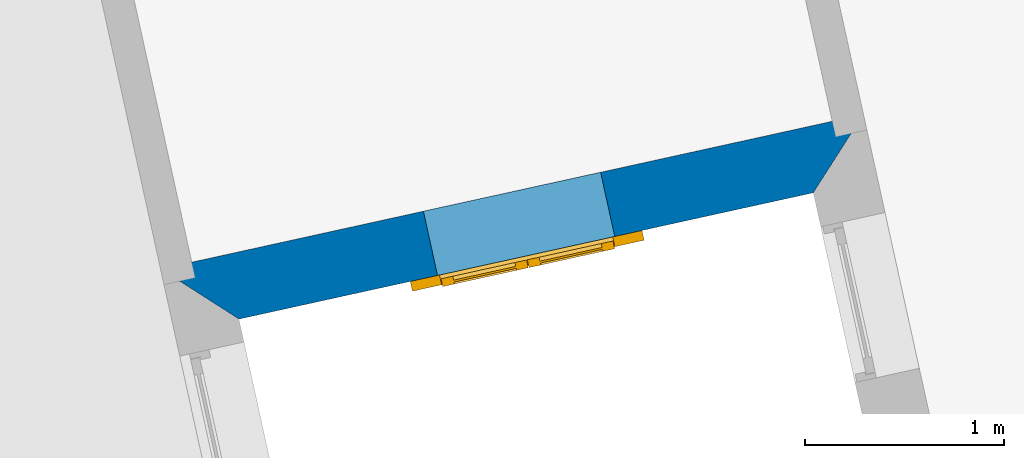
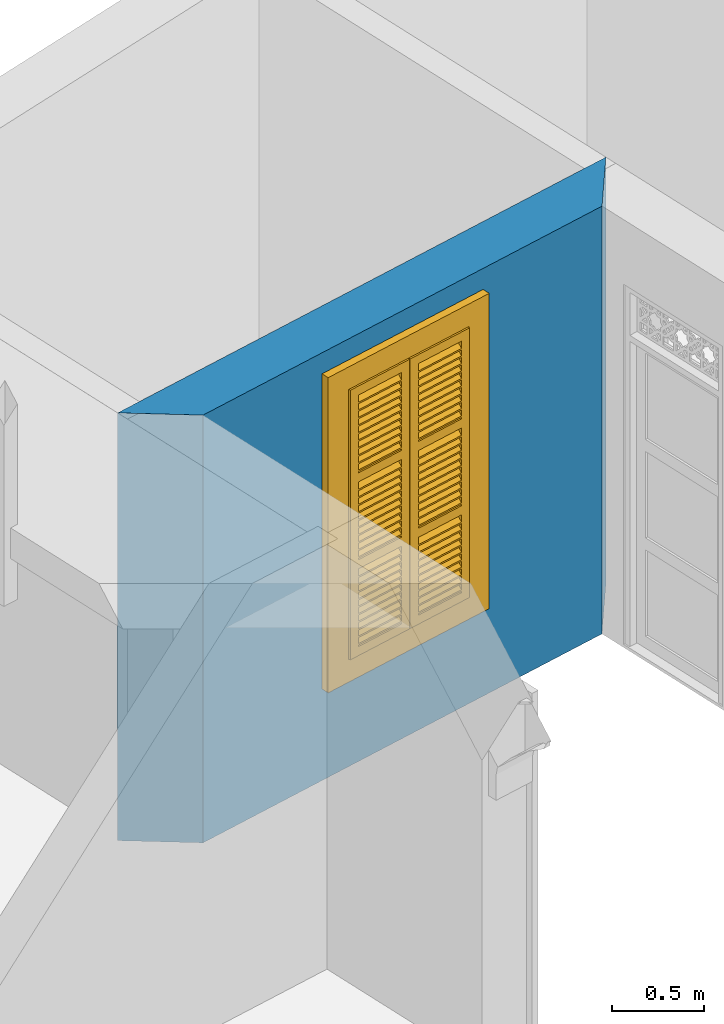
# One storey, part 12 of 14: 1 wall, 1 window, 1 opening.
"""IFC4 building model written with IfcOpenShell, lengths in metres."""

from ifc_helpers import new_model, si_unit, frame, origin, origin_with_axes, place, context, subcontext, project, spatial, polyline, outline, extrude, faceted_brep, source, transform, mapped, material, layer, layer_set, layer_usage, type_object, type_shapes, element, fill, save


model = new_model("IFC4")

# Units and contexts
model_context = context("Model", 3, world=origin_with_axes())
body_context = subcontext(model_context, "Body", "Model", "MODEL_VIEW")
ifc_project = project(units=[si_unit("PLANEANGLEUNIT", "RADIAN"), si_unit("MASSUNIT", "GRAM", prefix="KILO"), si_unit("FORCEUNIT", "NEWTON", prefix="KILO"), si_unit("LENGTHUNIT", "METRE"), si_unit("AREAUNIT", "SQUARE_METRE"), si_unit("VOLUMEUNIT", "CUBIC_METRE")], contexts=[model_context, model_context])

# Site, building, storey
site_placement = place(None, origin_with_axes())
site = spatial("IfcSite", under=ifc_project, at=site_placement, Name="Site plot-2", CompositionType="ELEMENT")
building_placement = place(None, origin_with_axes())
building = spatial("IfcBuilding", under=site, at=building_placement, Name="Building plot-2", CompositionType="ELEMENT")
storey_placement = place(None, origin_with_axes())
storey = spatial("IfcBuildingStorey", under=building, at=storey_placement, Name="plot-2 0", CompositionType="ELEMENT", Elevation=0.0)

# Wall, opening, window
ifc_material = material(Name="Masonry")
ifc_layer = layer(ifc_material, 0.33, ventilated=False)
ifc_layer_set = layer_set([ifc_layer], Name="exterior_0.08_0.25")
ifc_layer_usage = layer_usage(ifc_layer_set, "AXIS2", "POSITIVE", -0.25)
wall_type = type_object("IfcWallType", Name="exterior_0.08_0.25", PredefinedType="SOLIDWALL", material=ifc_layer_set)
wall_placement = place(storey_placement, frame((12.116330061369, 12.5787445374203, 0.0), z_axis=(0.0, 0.0, 1.0), x_axis=(0.976656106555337, 0.214808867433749, 0.0)))
wall = element("IfcWall", 1, at=wall_placement, inside=storey, type_object=wall_type, material=ifc_layer_usage, Name="exterior", context=body_context, shape_type="SweptSolid", body=[
    extrude(outline(polyline([(-0.0800000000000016, 0.0800000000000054), (0.25, -0.25), (3.19892127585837, -0.250000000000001), (3.52892127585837, 0.08), (-0.0800000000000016, 0.0800000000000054)])), origin_with_axes(), (0.0, 0.0, 1.0), 2.85),
])
opening_placement = place(wall_placement, frame((1.26946063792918, 0.0, 0.75)))
opening = element("IfcOpeningElement", 2, at=opening_placement, cuts=wall, Name="My Opening", ObjectType="Opening", context=body_context, shape_type="SweptSolid", body=[
    extrude(outline(polyline([(0.0, -0.27), (0.91, -0.27), (0.910000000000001, 1.1), (4.44089209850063e-16, 1.1), (0.0, -0.27)])), origin_with_axes(), (0.0, 0.0, 1.0), 1.82),
])
window_type = type_object("IfcWindowType", Name="shuttered_big", PartitioningType="DOUBLE_PANEL_HORIZONTAL", PredefinedType="NOTDEFINED")
shared_shape = source(origin(), body_context, "Body", "Brep", [
    faceted_brep([(0.074, 0.0, 0.810667), (0.393, 0.0, 0.810667), (0.393, 0.0, 0.800667), (0.074, 0.0, 0.800667), (0.074, -0.04, 0.770667), (0.393, -0.04, 0.770667), (0.393, -0.04, 0.760667), (0.074, -0.04, 0.760667), (0.517, 0.0, 0.232), (0.836, 0.0, 0.232), (0.836, 0.0, 0.222), (0.517, 0.0, 0.222), (0.517, -0.04, 0.192), (0.836, -0.04, 0.192), (0.836, -0.04, 0.182), (0.517, -0.04, 0.182), (0.517, 0.0, 0.532), (0.836, 0.0, 0.532), (0.836, 0.0, 0.522), (0.517, 0.0, 0.522), (0.517, -0.04, 0.492), (0.836, -0.04, 0.492), (0.836, -0.04, 0.482), (0.517, -0.04, 0.482), (0.517, 0.0, 0.482), (0.836, 0.0, 0.482), (0.836, 0.0, 0.472), (0.517, 0.0, 0.472), (0.517, -0.04, 0.442), (0.836, -0.04, 0.442), (0.836, -0.04, 0.432), (0.517, -0.04, 0.432), (0.517, 0.0, 0.582), (0.836, 0.0, 0.582), (0.836, 0.0, 0.572), (0.517, 0.0, 0.572), (0.517, -0.04, 0.542), (0.836, -0.04, 0.542), (0.836, -0.04, 0.532), (0.517, -0.04, 0.532), (0.517, 0.0, 0.182), (0.836, 0.0, 0.182), (0.836, 0.0, 0.172), (0.517, 0.0, 0.172), (0.517, -0.04, 0.142), (0.836, -0.04, 0.142), (0.836, -0.04, 0.132), (0.517, -0.04, 0.132), (0.517, 0.0, 0.382), (0.836, 0.0, 0.382), (0.836, 0.0, 0.372), (0.517, 0.0, 0.372), (0.517, -0.04, 0.342), (0.836, -0.04, 0.342), (0.836, -0.04, 0.332), (0.517, -0.04, 0.332), (0.517, 0.0, 0.432), (0.836, 0.0, 0.432), (0.836, 0.0, 0.422), (0.517, 0.0, 0.422), (0.517, -0.04, 0.392), (0.836, -0.04, 0.392), (0.836, -0.04, 0.382), (0.517, -0.04, 0.382), (0.517, 0.0, 0.132), (0.836, 0.0, 0.132), (0.836, 0.0, 0.122), (0.517, 0.0, 0.122), (0.517, -0.04, 0.092), (0.836, -0.04, 0.092), (0.836, -0.04, 0.082), (0.517, -0.04, 0.082), (0.517, 0.0, 0.282), (0.836, 0.0, 0.282), (0.836, 0.0, 0.272), (0.517, 0.0, 0.272), (0.517, -0.04, 0.242), (0.836, -0.04, 0.242), (0.836, -0.04, 0.232), (0.517, -0.04, 0.232), (0.517, 0.0, 0.332), (0.836, 0.0, 0.332), (0.836, 0.0, 0.322), (0.517, 0.0, 0.322), (0.517, -0.04, 0.292), (0.836, -0.04, 0.292), (0.836, -0.04, 0.282), (0.517, -0.04, 0.282), (0.517, 0.0, 0.810667), (0.836, 0.0, 0.810667), (0.836, 0.0, 0.800667), (0.517, 0.0, 0.800667), (0.517, -0.04, 0.770667), (0.836, -0.04, 0.770667), (0.836, -0.04, 0.760667), (0.517, -0.04, 0.760667), (0.517, 0.0, 1.110667), (0.836, 0.0, 1.110667), (0.836, 0.0, 1.100667), (0.517, 0.0, 1.100667), (0.517, -0.04, 1.070667), (0.836, -0.04, 1.070667), (0.836, -0.04, 1.060667), (0.517, -0.04, 1.060667), (0.517, 0.0, 1.060667), (0.836, 0.0, 1.060667), (0.836, 0.0, 1.050667), (0.517, 0.0, 1.050667), (0.517, -0.04, 1.020667), (0.836, -0.04, 1.020667), (0.836, -0.04, 1.010667), (0.517, -0.04, 1.010667), (0.517, 0.0, 1.160667), (0.836, 0.0, 1.160667), (0.836, 0.0, 1.150667), (0.517, 0.0, 1.150667), (0.517, -0.04, 1.120667), (0.836, -0.04, 1.120667), (0.836, -0.04, 1.110667), (0.517, -0.04, 1.110667), (0.517, 0.0, 0.760667), (0.836, 0.0, 0.760667), (0.836, 0.0, 0.750667), (0.517, 0.0, 0.750667), (0.517, -0.04, 0.720667), (0.836, -0.04, 0.720667), (0.836, -0.04, 0.710667), (0.517, -0.04, 0.710667), (0.517, 0.0, 0.960667), (0.836, 0.0, 0.960667), (0.836, 0.0, 0.950667), (0.517, 0.0, 0.950667), (0.517, -0.04, 0.920667), (0.836, -0.04, 0.920667), (0.836, -0.04, 0.910667), (0.517, -0.04, 0.910667), (0.517, 0.0, 1.010667), (0.836, 0.0, 1.010667), (0.836, 0.0, 1.0), (0.517, 0.0, 1.0), (0.517, -0.04, 0.970667), (0.836, -0.04, 0.970667), (0.836, -0.04, 0.960667), (0.517, -0.04, 0.960667), (0.517, 0.0, 0.710667), (0.836, 0.0, 0.710667), (0.836, 0.0, 0.700667), (0.517, 0.0, 0.700667), (0.517, -0.04, 0.670667), (0.836, -0.04, 0.670667), (0.836, -0.04, 0.660667), (0.517, -0.04, 0.660667), (0.517, 0.0, 0.860667), (0.836, 0.0, 0.860667), (0.836, 0.0, 0.850667), (0.517, 0.0, 0.850667), (0.517, -0.04, 0.820667), (0.836, -0.04, 0.820667), (0.836, -0.04, 0.810667), (0.517, -0.04, 0.810667), (0.517, 0.0, 0.910667), (0.836, 0.0, 0.910667), (0.836, 0.0, 0.900667), (0.517, 0.0, 0.900667), (0.517, -0.04, 0.870667), (0.836, -0.04, 0.870667), (0.836, -0.04, 0.860667), (0.517, -0.04, 0.860667), (0.517, 0.0, 1.389333), (0.836, 0.0, 1.389333), (0.836, 0.0, 1.379333), (0.517, 0.0, 1.379333), (0.517, -0.04, 1.349333), (0.836, -0.04, 1.349333), (0.836, -0.04, 1.339333), (0.517, -0.04, 1.339333), (0.517, 0.0, 1.689333), (0.836, 0.0, 1.689333), (0.836, 0.0, 1.679333), (0.517, 0.0, 1.679333), (0.517, -0.04, 1.649333), (0.836, -0.04, 1.649333), (0.836, -0.04, 1.639333), (0.517, -0.04, 1.639333), (0.517, 0.0, 1.639333), (0.836, 0.0, 1.639333), (0.836, 0.0, 1.629333), (0.517, 0.0, 1.629333), (0.517, -0.04, 1.599333), (0.836, -0.04, 1.599333), (0.836, -0.04, 1.589333), (0.517, -0.04, 1.589333), (0.517, 0.0, 1.739333), (0.836, 0.0, 1.739333), (0.836, 0.0, 1.729333), (0.517, 0.0, 1.729333), (0.517, -0.04, 1.699333), (0.836, -0.04, 1.699333), (0.836, -0.04, 1.689333), (0.517, -0.04, 1.689333), (0.517, 0.0, 1.339333), (0.836, 0.0, 1.339333), (0.836, 0.0, 1.329333), (0.517, 0.0, 1.329333), (0.517, -0.04, 1.299333), (0.836, -0.04, 1.299333), (0.836, -0.04, 1.289333), (0.517, -0.04, 1.289333), (0.517, 0.0, 1.539333), (0.836, 0.0, 1.539333), (0.836, 0.0, 1.529333), (0.517, 0.0, 1.529333), (0.517, -0.04, 1.499333), (0.836, -0.04, 1.499333), (0.836, -0.04, 1.489333), (0.517, -0.04, 1.489333), (0.517, 0.0, 1.589333), (0.836, 0.0, 1.589333), (0.836, 0.0, 1.579333), (0.517, 0.0, 1.579333), (0.517, -0.04, 1.549333), (0.836, -0.04, 1.549333), (0.836, -0.04, 1.539333), (0.517, -0.04, 1.539333), (0.517, 0.0, 1.289333), (0.836, 0.0, 1.289333), (0.836, 0.0, 1.279333), (0.517, 0.0, 1.279333), (0.517, -0.04, 1.249333), (0.836, -0.04, 1.249333), (0.836, -0.04, 1.239333), (0.517, -0.04, 1.239333), (0.517, 0.0, 1.439333), (0.836, 0.0, 1.439333), (0.836, 0.0, 1.429333), (0.517, 0.0, 1.429333), (0.517, -0.04, 1.399333), (0.836, -0.04, 1.399333), (0.836, -0.04, 1.389333), (0.517, -0.04, 1.389333), (0.517, 0.0, 1.489333), (0.836, 0.0, 1.489333), (0.836, 0.0, 1.479333), (0.517, 0.0, 1.479333), (0.517, -0.04, 1.449333), (0.836, -0.04, 1.449333), (0.836, -0.04, 1.439333), (0.517, -0.04, 1.439333), (0.074, 0.0, 0.232), (0.393, 0.0, 0.232), (0.393, 0.0, 0.222), (0.074, 0.0, 0.222), (0.074, -0.04, 0.192), (0.393, -0.04, 0.192), (0.393, -0.04, 0.182), (0.074, -0.04, 0.182), (0.074, 0.0, 0.532), (0.393, 0.0, 0.532), (0.393, 0.0, 0.522), (0.074, 0.0, 0.522), (0.074, -0.04, 0.492), (0.393, -0.04, 0.492), (0.393, -0.04, 0.482), (0.074, -0.04, 0.482), (0.074, 0.0, 0.482), (0.393, 0.0, 0.482), (0.393, 0.0, 0.472), (0.074, 0.0, 0.472), (0.074, -0.04, 0.442), (0.393, -0.04, 0.442), (0.393, -0.04, 0.432), (0.074, -0.04, 0.432), (0.074, 0.0, 0.582), (0.393, 0.0, 0.582), (0.393, 0.0, 0.572), (0.074, 0.0, 0.572), (0.074, -0.04, 0.542), (0.393, -0.04, 0.542), (0.393, -0.04, 0.532), (0.074, -0.04, 0.532), (0.074, 0.0, 0.182), (0.393, 0.0, 0.182), (0.393, 0.0, 0.172), (0.074, 0.0, 0.172), (0.074, -0.04, 0.142), (0.393, -0.04, 0.142), (0.393, -0.04, 0.132), (0.074, -0.04, 0.132), (0.074, 0.0, 0.382), (0.393, 0.0, 0.382), (0.393, 0.0, 0.372), (0.074, 0.0, 0.372), (0.074, -0.04, 0.342), (0.393, -0.04, 0.342), (0.393, -0.04, 0.332), (0.074, -0.04, 0.332), (0.074, 0.0, 0.432), (0.393, 0.0, 0.432), (0.393, 0.0, 0.422), (0.074, 0.0, 0.422), (0.074, -0.04, 0.392), (0.393, -0.04, 0.392), (0.393, -0.04, 0.382), (0.074, -0.04, 0.382), (0.074, 0.0, 0.132), (0.393, 0.0, 0.132), (0.393, 0.0, 0.122), (0.074, 0.0, 0.122), (0.074, -0.04, 0.092), (0.393, -0.04, 0.092), (0.393, -0.04, 0.082), (0.074, -0.04, 0.082), (0.074, 0.0, 0.282), (0.393, 0.0, 0.282), (0.393, 0.0, 0.272), (0.074, 0.0, 0.272), (0.074, -0.04, 0.242), (0.393, -0.04, 0.242), (0.393, -0.04, 0.232), (0.074, -0.04, 0.232), (0.074, 0.0, 0.332), (0.393, 0.0, 0.332), (0.393, 0.0, 0.322), (0.074, 0.0, 0.322), (0.074, -0.04, 0.292), (0.393, -0.04, 0.292), (0.393, -0.04, 0.282), (0.074, -0.04, 0.282), (0.074, 0.0, 1.110667), (0.393, 0.0, 1.110667), (0.393, 0.0, 1.100667), (0.074, 0.0, 1.100667), (0.074, -0.04, 1.070667), (0.393, -0.04, 1.070667), (0.393, -0.04, 1.060667), (0.074, -0.04, 1.060667), (0.074, 0.0, 1.060667), (0.393, 0.0, 1.060667), (0.393, 0.0, 1.050667), (0.074, 0.0, 1.050667), (0.074, -0.04, 1.020667), (0.393, -0.04, 1.020667), (0.393, -0.04, 1.010667), (0.074, -0.04, 1.010667), (0.074, 0.0, 1.160667), (0.393, 0.0, 1.160667), (0.393, 0.0, 1.150667), (0.074, 0.0, 1.150667), (0.074, -0.04, 1.120667), (0.393, -0.04, 1.120667), (0.393, -0.04, 1.110667), (0.074, -0.04, 1.110667), (0.074, 0.0, 0.760667), (0.393, 0.0, 0.760667), (0.393, 0.0, 0.750667), (0.074, 0.0, 0.750667), (0.074, -0.04, 0.720667), (0.393, -0.04, 0.720667), (0.393, -0.04, 0.710667), (0.074, -0.04, 0.710667), (0.074, 0.0, 0.960667), (0.393, 0.0, 0.960667), (0.393, 0.0, 0.950667), (0.074, 0.0, 0.950667), (0.074, -0.04, 0.920667), (0.393, -0.04, 0.920667), (0.393, -0.04, 0.910667), (0.074, -0.04, 0.910667), (0.074, 0.0, 1.010667), (0.393, 0.0, 1.010667), (0.393, 0.0, 1.0), (0.074, 0.0, 1.0), (0.074, -0.04, 0.970667), (0.393, -0.04, 0.970667), (0.393, -0.04, 0.960667), (0.074, -0.04, 0.960667), (0.074, 0.0, 0.710667), (0.393, 0.0, 0.710667), (0.393, 0.0, 0.700667), (0.074, 0.0, 0.700667), (0.074, -0.04, 0.670667), (0.393, -0.04, 0.670667), (0.393, -0.04, 0.660667), (0.074, -0.04, 0.660667), (0.074, 0.0, 0.860667), (0.393, 0.0, 0.860667), (0.393, 0.0, 0.850667), (0.074, 0.0, 0.850667), (0.074, -0.04, 0.820667), (0.393, -0.04, 0.820667), (0.393, -0.04, 0.810667), (0.074, -0.04, 0.810667), (0.074, 0.0, 0.910667), (0.393, 0.0, 0.910667), (0.393, 0.0, 0.900667), (0.074, 0.0, 0.900667), (0.074, -0.04, 0.870667), (0.393, -0.04, 0.870667), (0.393, -0.04, 0.860667), (0.074, -0.04, 0.860667), (0.074, 0.0, 1.389333), (0.393, 0.0, 1.389333), (0.393, 0.0, 1.379333), (0.074, 0.0, 1.379333), (0.074, -0.04, 1.349333), (0.393, -0.04, 1.349333), (0.393, -0.04, 1.339333), (0.074, -0.04, 1.339333), (0.074, 0.0, 1.689333), (0.393, 0.0, 1.689333), (0.393, 0.0, 1.679333), (0.074, 0.0, 1.679333), (0.074, -0.04, 1.649333), (0.393, -0.04, 1.649333), (0.393, -0.04, 1.639333), (0.074, -0.04, 1.639333), (0.074, 0.0, 1.639333), (0.393, 0.0, 1.639333), (0.393, 0.0, 1.629333), (0.074, 0.0, 1.629333), (0.074, -0.04, 1.599333), (0.393, -0.04, 1.599333), (0.393, -0.04, 1.589333), (0.074, -0.04, 1.589333), (0.074, 0.0, 1.739333), (0.393, 0.0, 1.739333), (0.393, 0.0, 1.729333), (0.074, 0.0, 1.729333), (0.074, -0.04, 1.699333), (0.393, -0.04, 1.699333), (0.393, -0.04, 1.689333), (0.074, -0.04, 1.689333), (0.074, 0.0, 1.339333), (0.393, 0.0, 1.339333), (0.393, 0.0, 1.329333), (0.074, 0.0, 1.329333), (0.074, -0.04, 1.299333), (0.393, -0.04, 1.299333), (0.393, -0.04, 1.289333), (0.074, -0.04, 1.289333), (0.074, 0.0, 1.539333), (0.393, 0.0, 1.539333), (0.393, 0.0, 1.529333), (0.074, 0.0, 1.529333), (0.074, -0.04, 1.499333), (0.393, -0.04, 1.499333), (0.393, -0.04, 1.489333), (0.074, -0.04, 1.489333), (0.074, 0.0, 1.589333), (0.393, 0.0, 1.589333), (0.393, 0.0, 1.579333), (0.074, 0.0, 1.579333), (0.074, -0.04, 1.549333), (0.393, -0.04, 1.549333), (0.393, -0.04, 1.539333), (0.074, -0.04, 1.539333), (0.074, 0.0, 1.289333), (0.393, 0.0, 1.289333), (0.393, 0.0, 1.279333), (0.074, 0.0, 1.279333), (0.074, -0.04, 1.249333), (0.393, -0.04, 1.249333), (0.393, -0.04, 1.239333), (0.074, -0.04, 1.239333), (0.074, 0.0, 1.439333), (0.393, 0.0, 1.439333), (0.393, 0.0, 1.429333), (0.074, 0.0, 1.429333), (0.074, -0.04, 1.399333), (0.393, -0.04, 1.399333), (0.393, -0.04, 1.389333), (0.074, -0.04, 1.389333), (0.074, 0.0, 1.489333), (0.393, 0.0, 1.489333), (0.393, 0.0, 1.479333), (0.074, 0.0, 1.479333), (0.074, -0.04, 1.449333), (0.393, -0.04, 1.449333), (0.393, -0.04, 1.439333), (0.074, -0.04, 1.439333), (0.517, -0.04, 0.072), (0.457, -0.04, 0.012), (0.896, -0.04, 0.012), (0.836, -0.04, 0.072), (0.457, -0.04, 0.590667), (0.517, -0.04, 0.590667), (0.457, 0.0, 0.012), (0.896, 0.0, 0.012), (0.836, -0.04, 0.590667), (0.896, -0.04, 0.590667), (0.836, 0.0, 0.072), (0.517, 0.0, 0.072), (0.457, 0.0, 0.590667), (0.517, 0.0, 0.590667), (0.517, -0.04, 0.650667), (0.457, -0.04, 0.650667), (0.896, 0.0, 0.590667), (0.836, 0.0, 0.590667), (0.836, -0.04, 0.650667), (0.896, -0.04, 0.650667), (0.457, 0.0, 0.650667), (0.457, -0.04, 1.169333), (0.517, -0.04, 1.169333), (0.896, 0.0, 0.650667), (0.836, -0.04, 1.169333), (0.896, -0.04, 1.169333), (0.457, 0.0, 1.169333), (0.517, 0.0, 0.650667), (0.836, 0.0, 0.650667), (0.517, 0.0, 1.169333), (0.517, -0.04, 1.229333), (0.457, -0.04, 1.229333), (0.896, 0.0, 1.169333), (0.836, 0.0, 1.169333), (0.836, -0.04, 1.229333), (0.896, -0.04, 1.229333), (0.457, 0.0, 1.229333), (0.517, -0.04, 1.748), (0.457, -0.04, 1.808), (0.896, 0.0, 1.229333), (0.896, -0.04, 1.808), (0.836, -0.04, 1.748), (0.457, 0.0, 1.808), (0.517, 0.0, 1.229333), (0.836, 0.0, 1.229333), (0.517, 0.0, 1.748), (0.896, 0.0, 1.808), (0.836, 0.0, 1.748), (0.074, -0.04, 0.072), (0.014, -0.04, 0.012), (0.453, -0.04, 0.012), (0.393, -0.04, 0.072), (0.014, -0.04, 0.590667), (0.074, -0.04, 0.590667), (0.014, 0.0, 0.012), (0.453, 0.0, 0.012), (0.393, -0.04, 0.590667), (0.453, -0.04, 0.590667), (0.393, 0.0, 0.072), (0.074, 0.0, 0.072), (0.014, 0.0, 0.590667), (0.074, 0.0, 0.590667), (0.074, -0.04, 0.650667), (0.014, -0.04, 0.650667), (0.453, 0.0, 0.590667), (0.393, 0.0, 0.590667), (0.393, -0.04, 0.650667), (0.453, -0.04, 0.650667), (0.014, 0.0, 0.650667), (0.014, -0.04, 1.169333), (0.074, -0.04, 1.169333), (0.453, 0.0, 0.650667), (0.393, -0.04, 1.169333), (0.453, -0.04, 1.169333), (0.014, 0.0, 1.169333), (0.074, 0.0, 0.650667), (0.393, 0.0, 0.650667), (0.074, 0.0, 1.169333), (0.074, -0.04, 1.229333), (0.014, -0.04, 1.229333), (0.453, 0.0, 1.169333), (0.393, 0.0, 1.169333), (0.393, -0.04, 1.229333), (0.453, -0.04, 1.229333), (0.014, 0.0, 1.229333), (0.074, -0.04, 1.748), (0.014, -0.04, 1.808), (0.453, 0.0, 1.229333), (0.453, -0.04, 1.808), (0.393, -0.04, 1.748), (0.014, 0.0, 1.808), (0.074, 0.0, 1.229333), (0.393, 0.0, 1.229333), (0.074, 0.0, 1.748), (0.453, 0.0, 1.808), (0.393, 0.0, 1.748), (0.0, 0.33, 1.82), (0.91, 0.33, 1.82), (0.85, 0.33, 1.76), (0.06, 0.33, 1.76), (1.05, -0.03, 1.96), (1.05, 0.25, 1.96), (-0.14, 0.25, 1.96), (-0.14, -0.03, 1.96), (0.0, 0.25, 1.82), (0.91, 0.25, 1.82), (0.9, 0.25, 1.81), (0.01, 0.25, 1.81), (0.85, 0.33, 0.06), (0.91, 0.33, 0.0), (0.85, 0.25, 1.76), (0.06, 0.25, 1.76), (0.0, 0.33, 0.0), (0.06, 0.33, 0.06), (0.0, 0.25, 0.0), (0.910046, 0.25, 1.82), (0.91, 0.25, 0.0), (0.85, 0.25, 0.06), (0.06, 0.25, 0.06), (0.9, 0.25, 0.01), (0.9, -0.03, 0.01), (0.9, -0.03, 1.81), (0.01, -0.03, 0.01), (-0.14, -0.03, -0.14), (1.05, -0.03, -0.14), (0.01, -0.03, 1.81), (0.01, 0.25, 0.01), (1.05, 0.25, -0.14), (-0.14, 0.25, -0.14)], [[[0, 1, 2, 3]], [[1, 0, 4, 5]], [[2, 1, 5, 6]], [[6, 7, 3, 2]], [[7, 4, 0, 3]], [[5, 4, 7, 6]], [[8, 9, 10, 11]], [[12, 13, 9, 8]], [[13, 14, 10, 9]], [[14, 15, 11, 10]], [[15, 12, 8, 11]], [[13, 12, 15, 14]], [[16, 17, 18, 19]], [[20, 21, 17, 16]], [[21, 22, 18, 17]], [[22, 23, 19, 18]], [[23, 20, 16, 19]], [[21, 20, 23, 22]], [[24, 25, 26, 27]], [[28, 29, 25, 24]], [[29, 30, 26, 25]], [[30, 31, 27, 26]], [[31, 28, 24, 27]], [[29, 28, 31, 30]], [[32, 33, 34, 35]], [[36, 37, 33, 32]], [[37, 38, 34, 33]], [[38, 39, 35, 34]], [[39, 36, 32, 35]], [[37, 36, 39, 38]], [[40, 41, 42, 43]], [[44, 45, 41, 40]], [[45, 46, 42, 41]], [[46, 47, 43, 42]], [[47, 44, 40, 43]], [[45, 44, 47, 46]], [[48, 49, 50, 51]], [[52, 53, 49, 48]], [[53, 54, 50, 49]], [[54, 55, 51, 50]], [[55, 52, 48, 51]], [[53, 52, 55, 54]], [[56, 57, 58, 59]], [[60, 61, 57, 56]], [[61, 62, 58, 57]], [[62, 63, 59, 58]], [[63, 60, 56, 59]], [[61, 60, 63, 62]], [[64, 65, 66, 67]], [[68, 69, 65, 64]], [[69, 70, 66, 65]], [[70, 71, 67, 66]], [[71, 68, 64, 67]], [[69, 68, 71, 70]], [[72, 73, 74, 75]], [[76, 77, 73, 72]], [[77, 78, 74, 73]], [[78, 79, 75, 74]], [[79, 76, 72, 75]], [[77, 76, 79, 78]], [[80, 81, 82, 83]], [[84, 85, 81, 80]], [[85, 86, 82, 81]], [[86, 87, 83, 82]], [[87, 84, 80, 83]], [[85, 84, 87, 86]], [[88, 89, 90, 91]], [[92, 93, 89, 88]], [[93, 94, 90, 89]], [[94, 95, 91, 90]], [[95, 92, 88, 91]], [[93, 92, 95, 94]], [[96, 97, 98, 99]], [[100, 101, 97, 96]], [[101, 102, 98, 97]], [[102, 103, 99, 98]], [[103, 100, 96, 99]], [[101, 100, 103, 102]], [[104, 105, 106, 107]], [[108, 109, 105, 104]], [[109, 110, 106, 105]], [[110, 111, 107, 106]], [[111, 108, 104, 107]], [[109, 108, 111, 110]], [[112, 113, 114, 115]], [[116, 117, 113, 112]], [[117, 118, 114, 113]], [[118, 119, 115, 114]], [[119, 116, 112, 115]], [[117, 116, 119, 118]], [[120, 121, 122, 123]], [[124, 125, 121, 120]], [[125, 126, 122, 121]], [[126, 127, 123, 122]], [[127, 124, 120, 123]], [[125, 124, 127, 126]], [[128, 129, 130, 131]], [[132, 133, 129, 128]], [[133, 134, 130, 129]], [[134, 135, 131, 130]], [[135, 132, 128, 131]], [[133, 132, 135, 134]], [[136, 137, 138, 139]], [[140, 141, 137, 136]], [[141, 142, 138, 137]], [[142, 143, 139, 138]], [[143, 140, 136, 139]], [[141, 140, 143, 142]], [[144, 145, 146, 147]], [[148, 149, 145, 144]], [[149, 150, 146, 145]], [[150, 151, 147, 146]], [[151, 148, 144, 147]], [[149, 148, 151, 150]], [[152, 153, 154, 155]], [[156, 157, 153, 152]], [[157, 158, 154, 153]], [[158, 159, 155, 154]], [[159, 156, 152, 155]], [[157, 156, 159, 158]], [[160, 161, 162, 163]], [[164, 165, 161, 160]], [[165, 166, 162, 161]], [[166, 167, 163, 162]], [[167, 164, 160, 163]], [[165, 164, 167, 166]], [[168, 169, 170, 171]], [[172, 173, 169, 168]], [[173, 174, 170, 169]], [[174, 175, 171, 170]], [[175, 172, 168, 171]], [[173, 172, 175, 174]], [[176, 177, 178, 179]], [[180, 181, 177, 176]], [[181, 182, 178, 177]], [[182, 183, 179, 178]], [[183, 180, 176, 179]], [[181, 180, 183, 182]], [[184, 185, 186, 187]], [[188, 189, 185, 184]], [[189, 190, 186, 185]], [[190, 191, 187, 186]], [[191, 188, 184, 187]], [[189, 188, 191, 190]], [[192, 193, 194, 195]], [[196, 197, 193, 192]], [[197, 198, 194, 193]], [[198, 199, 195, 194]], [[199, 196, 192, 195]], [[197, 196, 199, 198]], [[200, 201, 202, 203]], [[204, 205, 201, 200]], [[205, 206, 202, 201]], [[206, 207, 203, 202]], [[207, 204, 200, 203]], [[205, 204, 207, 206]], [[208, 209, 210, 211]], [[212, 213, 209, 208]], [[213, 214, 210, 209]], [[214, 215, 211, 210]], [[215, 212, 208, 211]], [[213, 212, 215, 214]], [[216, 217, 218, 219]], [[220, 221, 217, 216]], [[221, 222, 218, 217]], [[222, 223, 219, 218]], [[223, 220, 216, 219]], [[221, 220, 223, 222]], [[224, 225, 226, 227]], [[228, 229, 225, 224]], [[229, 230, 226, 225]], [[230, 231, 227, 226]], [[231, 228, 224, 227]], [[229, 228, 231, 230]], [[232, 233, 234, 235]], [[236, 237, 233, 232]], [[237, 238, 234, 233]], [[238, 239, 235, 234]], [[239, 236, 232, 235]], [[237, 236, 239, 238]], [[240, 241, 242, 243]], [[244, 245, 241, 240]], [[245, 246, 242, 241]], [[246, 247, 243, 242]], [[247, 244, 240, 243]], [[245, 244, 247, 246]], [[248, 249, 250, 251]], [[252, 253, 249, 248]], [[253, 254, 250, 249]], [[254, 255, 251, 250]], [[255, 252, 248, 251]], [[253, 252, 255, 254]], [[256, 257, 258, 259]], [[260, 261, 257, 256]], [[261, 262, 258, 257]], [[262, 263, 259, 258]], [[263, 260, 256, 259]], [[261, 260, 263, 262]], [[264, 265, 266, 267]], [[268, 269, 265, 264]], [[269, 270, 266, 265]], [[270, 271, 267, 266]], [[271, 268, 264, 267]], [[269, 268, 271, 270]], [[272, 273, 274, 275]], [[276, 277, 273, 272]], [[277, 278, 274, 273]], [[278, 279, 275, 274]], [[279, 276, 272, 275]], [[277, 276, 279, 278]], [[280, 281, 282, 283]], [[284, 285, 281, 280]], [[285, 286, 282, 281]], [[286, 287, 283, 282]], [[287, 284, 280, 283]], [[285, 284, 287, 286]], [[288, 289, 290, 291]], [[292, 293, 289, 288]], [[293, 294, 290, 289]], [[294, 295, 291, 290]], [[295, 292, 288, 291]], [[293, 292, 295, 294]], [[296, 297, 298, 299]], [[300, 301, 297, 296]], [[301, 302, 298, 297]], [[302, 303, 299, 298]], [[303, 300, 296, 299]], [[301, 300, 303, 302]], [[304, 305, 306, 307]], [[308, 309, 305, 304]], [[309, 310, 306, 305]], [[310, 311, 307, 306]], [[311, 308, 304, 307]], [[309, 308, 311, 310]], [[312, 313, 314, 315]], [[316, 317, 313, 312]], [[317, 318, 314, 313]], [[318, 319, 315, 314]], [[319, 316, 312, 315]], [[317, 316, 319, 318]], [[320, 321, 322, 323]], [[324, 325, 321, 320]], [[325, 326, 322, 321]], [[326, 327, 323, 322]], [[327, 324, 320, 323]], [[325, 324, 327, 326]], [[328, 329, 330, 331]], [[332, 333, 329, 328]], [[333, 334, 330, 329]], [[334, 335, 331, 330]], [[335, 332, 328, 331]], [[333, 332, 335, 334]], [[336, 337, 338, 339]], [[340, 341, 337, 336]], [[341, 342, 338, 337]], [[342, 343, 339, 338]], [[343, 340, 336, 339]], [[341, 340, 343, 342]], [[344, 345, 346, 347]], [[348, 349, 345, 344]], [[349, 350, 346, 345]], [[350, 351, 347, 346]], [[351, 348, 344, 347]], [[349, 348, 351, 350]], [[352, 353, 354, 355]], [[356, 357, 353, 352]], [[357, 358, 354, 353]], [[358, 359, 355, 354]], [[359, 356, 352, 355]], [[357, 356, 359, 358]], [[360, 361, 362, 363]], [[364, 365, 361, 360]], [[365, 366, 362, 361]], [[366, 367, 363, 362]], [[367, 364, 360, 363]], [[366, 365, 364, 367]], [[368, 369, 370, 371]], [[372, 373, 369, 368]], [[373, 374, 370, 369]], [[374, 375, 371, 370]], [[375, 372, 368, 371]], [[373, 372, 375, 374]], [[376, 377, 378, 379]], [[380, 381, 377, 376]], [[381, 382, 378, 377]], [[382, 383, 379, 378]], [[383, 380, 376, 379]], [[381, 380, 383, 382]], [[384, 385, 386, 387]], [[388, 389, 385, 384]], [[389, 390, 386, 385]], [[390, 391, 387, 386]], [[391, 388, 384, 387]], [[389, 388, 391, 390]], [[392, 393, 394, 395]], [[396, 397, 393, 392]], [[397, 398, 394, 393]], [[398, 399, 395, 394]], [[399, 396, 392, 395]], [[397, 396, 399, 398]], [[400, 401, 402, 403]], [[404, 405, 401, 400]], [[405, 406, 402, 401]], [[406, 407, 403, 402]], [[407, 404, 400, 403]], [[405, 404, 407, 406]], [[408, 409, 410, 411]], [[412, 413, 409, 408]], [[413, 414, 410, 409]], [[414, 415, 411, 410]], [[415, 412, 408, 411]], [[414, 413, 412, 415]], [[416, 417, 418, 419]], [[420, 421, 417, 416]], [[421, 422, 418, 417]], [[422, 423, 419, 418]], [[423, 420, 416, 419]], [[421, 420, 423, 422]], [[424, 425, 426, 427]], [[428, 429, 425, 424]], [[429, 430, 426, 425]], [[430, 431, 427, 426]], [[431, 428, 424, 427]], [[429, 428, 431, 430]], [[432, 433, 434, 435]], [[436, 437, 433, 432]], [[437, 438, 434, 433]], [[438, 439, 435, 434]], [[439, 436, 432, 435]], [[437, 436, 439, 438]], [[440, 441, 442, 443]], [[444, 445, 441, 440]], [[445, 446, 442, 441]], [[446, 447, 443, 442]], [[447, 444, 440, 443]], [[445, 444, 447, 446]], [[448, 449, 450, 451]], [[452, 453, 449, 448]], [[453, 454, 450, 449]], [[454, 455, 451, 450]], [[455, 452, 448, 451]], [[453, 452, 455, 454]], [[456, 457, 458, 459]], [[460, 461, 457, 456]], [[461, 462, 458, 457]], [[462, 463, 459, 458]], [[463, 460, 456, 459]], [[461, 460, 463, 462]], [[464, 465, 466, 467]], [[468, 469, 465, 464]], [[469, 470, 466, 465]], [[470, 471, 467, 466]], [[471, 468, 464, 467]], [[469, 468, 471, 470]], [[472, 473, 474, 475]], [[476, 477, 473, 472]], [[477, 478, 474, 473]], [[478, 479, 475, 474]], [[479, 476, 472, 475]], [[477, 476, 479, 478]], [[480, 481, 482, 483]], [[484, 481, 480, 485]], [[486, 487, 482, 481]], [[488, 483, 482, 489]], [[480, 483, 490, 491]], [[486, 481, 484, 492]], [[485, 480, 491, 493]], [[485, 494, 495, 484]], [[486, 491, 490, 487]], [[496, 489, 482, 487]], [[483, 488, 497, 490]], [[498, 488, 489, 499]], [[492, 484, 495, 500]], [[486, 492, 493, 491]], [[488, 485, 493, 497]], [[494, 485, 488, 498]], [[501, 495, 494, 502]], [[490, 497, 496, 487]], [[503, 499, 489, 496]], [[504, 498, 499, 505]], [[500, 495, 501, 506]], [[507, 493, 492, 500]], [[493, 507, 508, 497]], [[494, 498, 508, 507]], [[502, 494, 507, 509]], [[502, 510, 511, 501]], [[497, 508, 503, 496]], [[512, 505, 499, 503]], [[498, 504, 513, 508]], [[514, 504, 505, 515]], [[506, 501, 511, 516]], [[500, 506, 509, 507]], [[504, 502, 509, 513]], [[510, 502, 504, 514]], [[510, 517, 518, 511]], [[508, 513, 512, 503]], [[519, 515, 505, 512]], [[515, 520, 521, 514]], [[516, 511, 518, 522]], [[523, 509, 506, 516]], [[509, 523, 524, 513]], [[510, 514, 524, 523]], [[517, 510, 523, 525]], [[518, 517, 521, 520]], [[513, 524, 519, 512]], [[526, 520, 515, 519]], [[514, 521, 527, 524]], [[522, 518, 520, 526]], [[525, 523, 516, 522]], [[521, 517, 525, 527]], [[526, 519, 524, 527]], [[525, 522, 526, 527]], [[528, 529, 530, 531]], [[532, 529, 528, 533]], [[534, 535, 530, 529]], [[536, 531, 530, 537]], [[528, 531, 538, 539]], [[534, 529, 532, 540]], [[533, 528, 539, 541]], [[533, 542, 543, 532]], [[534, 539, 538, 535]], [[544, 537, 530, 535]], [[531, 536, 545, 538]], [[546, 536, 537, 547]], [[540, 532, 543, 548]], [[534, 540, 541, 539]], [[536, 533, 541, 545]], [[542, 533, 536, 546]], [[549, 543, 542, 550]], [[538, 545, 544, 535]], [[551, 547, 537, 544]], [[552, 546, 547, 553]], [[548, 543, 549, 554]], [[555, 541, 540, 548]], [[541, 555, 556, 545]], [[542, 546, 556, 555]], [[550, 542, 555, 557]], [[550, 558, 559, 549]], [[545, 556, 551, 544]], [[560, 553, 547, 551]], [[546, 552, 561, 556]], [[562, 552, 553, 563]], [[554, 549, 559, 564]], [[548, 554, 557, 555]], [[552, 550, 557, 561]], [[558, 550, 552, 562]], [[558, 565, 566, 559]], [[556, 561, 560, 551]], [[567, 563, 553, 560]], [[563, 568, 569, 562]], [[564, 559, 566, 570]], [[571, 557, 554, 564]], [[557, 571, 572, 561]], [[558, 562, 572, 571]], [[565, 558, 571, 573]], [[566, 565, 569, 568]], [[561, 572, 567, 560]], [[574, 568, 563, 567]], [[562, 569, 575, 572]], [[570, 566, 568, 574]], [[573, 571, 564, 570]], [[569, 565, 573, 575]], [[574, 567, 572, 575]], [[573, 570, 574, 575]], [[576, 577, 578, 579]], [[580, 581, 582, 583]], [[576, 584, 585, 577]], [[582, 581, 586, 587]], [[588, 578, 577, 589]], [[579, 578, 590, 591]], [[592, 576, 579, 593]], [[576, 592, 594, 584]], [[595, 584, 591, 590]], [[596, 585, 595]], [[595, 590, 597]], [[595, 597, 596]], [[589, 577, 585, 596]], [[578, 588, 597, 590]], [[589, 592, 593, 588]], [[593, 579, 591, 598]], [[592, 589, 596, 594]], [[598, 591, 584, 594]], [[594, 596, 597, 598]], [[588, 593, 598, 597]], [[599, 600, 601, 586]], [[602, 603, 604, 600]], [[601, 605, 587, 586]], [[600, 599, 606, 602]], [[607, 604, 603, 608]], [[599, 607, 608, 606]], [[605, 602, 606, 587]], [[602, 605, 583, 603]], [[600, 604, 580, 601]], [[580, 583, 605, 601]], [[606, 608, 582, 587]], [[599, 586, 581, 607]], [[582, 608, 603, 583]], [[580, 604, 607, 581]]]),
])
type_shapes(window_type, [shared_shape])
window_placement = place(storey_placement, frame((13.4141549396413, 12.5877387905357, 0.75), z_axis=(0.0, 0.0, 1.0), x_axis=(0.888757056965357, 0.195476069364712, 0.0)))
window = element("IfcWindow", 3, at=window_placement, inside=storey, type_object=window_type, Name="toilet sahn window", OverallHeight=1.82, OverallWidth=0.91, context=body_context, shape_type="MappedRepresentation", body=[
    mapped(shared_shape, transform((0.0, 0.0, 0.0), scale=1.0)),
])
fill(opening, window)

save(model, "model.ifc")
